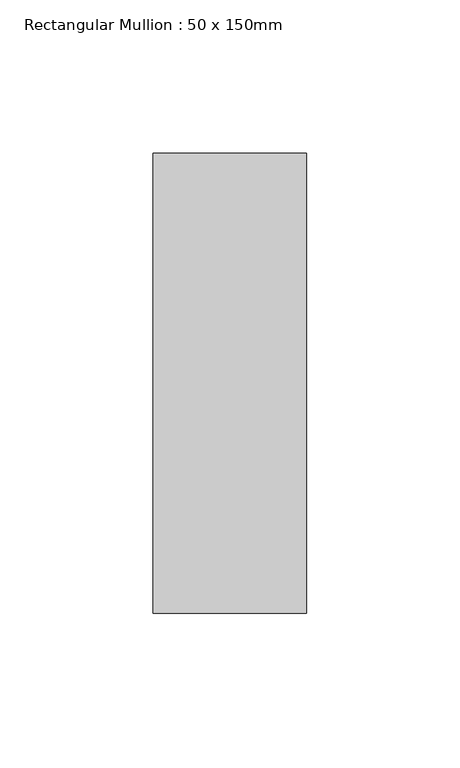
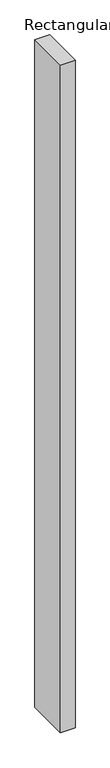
"""IFC4 building model written with IfcOpenShell, lengths in millimetres: member geometry, Rectangular Mullion : 50 x 150mm."""

from ifc_helpers import new_model, si_unit, frame, origin, place, context, project, spatial, polyline, outline, extrude, source, transform, mapped, element, save


def rectangular_mullion_50_x_150mm_129f4e6a(model_context):
    return source(origin(), model_context, "Body", "SweptSolid", [
        extrude(outline(polyline([(25.0, 75.0), (25.0, -75.0), (-25.0, -75.0), (-25.0, 75.0), (25.0, 75.0)])), frame((0.0, 0.0, -2401.2733623), z_axis=(0.0, 0.0, 1.0), x_axis=(1.0, 0.0, 0.0)), (0.0, 0.0, 1.0), 2401.2733623),
    ])


if __name__ == "__main__":
    model = new_model("IFC4")
    model_context = context("Model", 3, world=origin())
    ifc_project = project(units=[si_unit("LENGTHUNIT", "METRE", prefix="MILLI")], contexts=[model_context])
    site = spatial("IfcSite", under=ifc_project)
    building = spatial("IfcBuilding", under=site)
    placement = place(None, origin())
    rectangular_mullion_50_x_150mm_shape = rectangular_mullion_50_x_150mm_129f4e6a(model_context)
    element("IfcMember", 1, ObjectType="Rectangular Mullion : 50 x 150mm", at=placement, inside=building, context=model_context, shape_type="MappedRepresentation", body=[
        mapped(rectangular_mullion_50_x_150mm_shape, transform((0.0, 0.0, 0.0), x_axis=(1.0, 0.0, 0.0), y_axis=(0.0, 1.0, 0.0), z_axis=(0.0, 0.0, 1.0))),
    ])
    save(model, "model.ifc")
